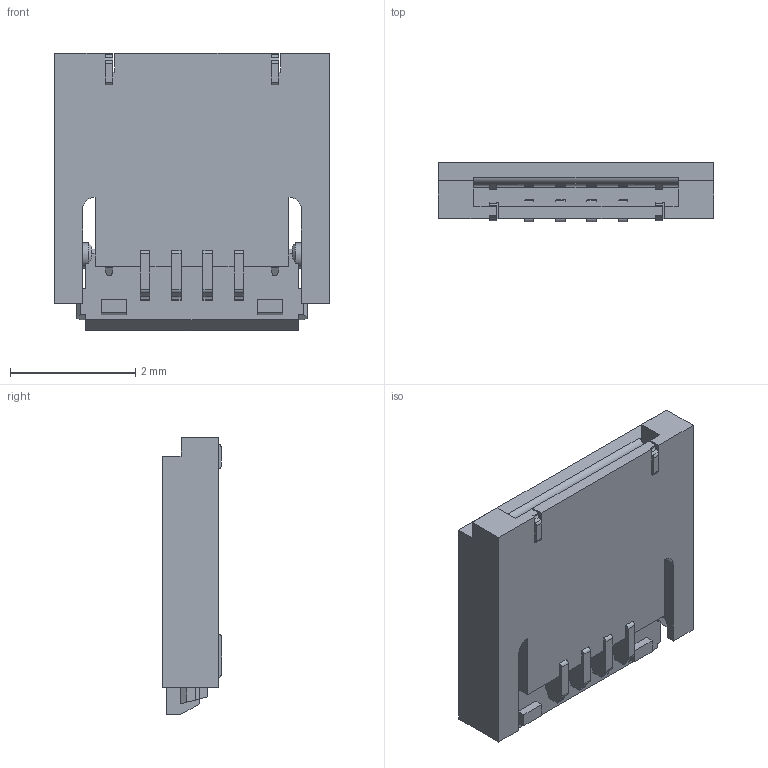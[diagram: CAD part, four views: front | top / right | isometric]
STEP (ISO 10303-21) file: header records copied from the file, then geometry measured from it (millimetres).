
FILE_DESCRIPTION (( 'STEP AP203' ), '1' );
FILE_NAME ('FF14A-4C-R11DL-B-3H(Lock).STEP', '2012-04-18T02:16:09', ( '' ), ( '' ), 'SwSTEP 2.0', 'SolidWorks 2011', '' );
FILE_SCHEMA (( 'CONFIG_CONTROL_DESIGN' ));
Length unit declared in the file: millimetre
Products named in the file (1): FF14A-4C-R11DL-B-3H(Lock)
Bounding box: 4.4 x 0.95 x 4.43 mm (x, y, z)
Volume: 11.9 mm3; surface area: 78.4 mm2
Topology: 1 solids, 1 shells, 324 faces, 975 edges, 647 vertices
Faces by surface type: plane 239, cylinder 82, cone 3
Entity records: 11031 total; most frequent: CARTESIAN_POINT 2037, ORIENTED_EDGE 1950, DIRECTION 1774, EDGE_CURVE 975, VECTOR 778, LINE 778, VERTEX_POINT 647, AXIS2_PLACEMENT_3D 498
